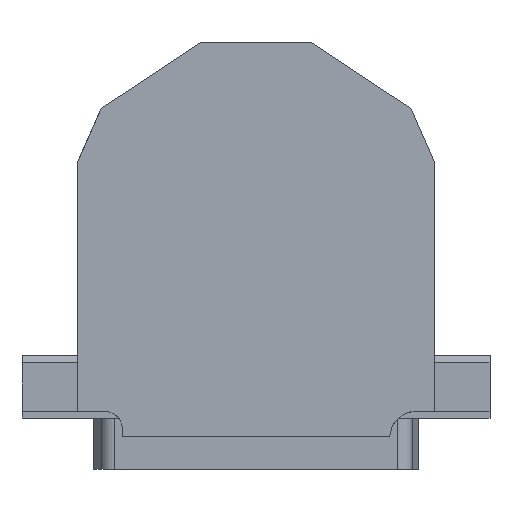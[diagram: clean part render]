
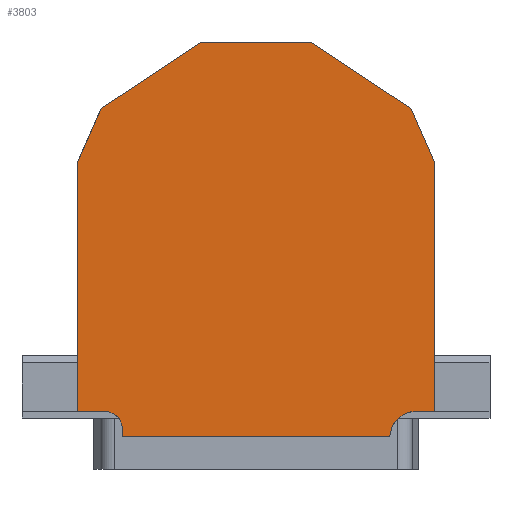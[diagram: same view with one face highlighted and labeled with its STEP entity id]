
A CAD part, top view. The second image highlights one B-rep face of the part: STEP entity #3803.
In plain terms, the highlighted planar face has unit normal (0, 0, 1).
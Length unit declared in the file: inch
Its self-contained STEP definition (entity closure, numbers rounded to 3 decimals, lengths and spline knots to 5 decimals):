
#611=DIRECTION('',(-1.,0.,0.));
#612=VECTOR('',#611,0.08015);
#613=CARTESIAN_POINT('',(0.8,0.,0.318));
#614=LINE('',#613,#612);
#615=DIRECTION('',(-1.,0.,0.));
#616=VECTOR('',#615,0.12);
#617=CARTESIAN_POINT('',(-0.68,0.,0.318));
#618=LINE('',#617,#616);
#619=DIRECTION('',(0.,1.,0.));
#620=VECTOR('',#619,1.12);
#621=CARTESIAN_POINT('',(-0.8,0.,0.318));
#622=LINE('',#621,#620);
#623=DIRECTION('',(0.401,0.916,0.));
#624=VECTOR('',#623,0.26214);
#625=CARTESIAN_POINT('',(-0.8,1.12,0.318));
#626=LINE('',#625,#624);
#627=CARTESIAN_POINT('',(-0.695,1.36019,0.318));
#628=CARTESIAN_POINT('',(-0.54667,1.45846,0.318));
#629=CARTESIAN_POINT('',(-0.39833,1.55673,0.318));
#630=CARTESIAN_POINT('',(-0.25,1.655,0.318));
#632=DIRECTION('',(1.,0.,0.));
#633=VECTOR('',#632,0.5);
#634=CARTESIAN_POINT('',(-0.25,1.655,0.318));
#635=LINE('',#634,#633);
#636=CARTESIAN_POINT('',(0.25,1.655,0.318));
#637=CARTESIAN_POINT('',(0.39833,1.55673,0.318));
#638=CARTESIAN_POINT('',(0.54667,1.45846,0.318));
#639=CARTESIAN_POINT('',(0.695,1.36019,0.318));
#641=DIRECTION('',(0.401,-0.916,0.));
#642=VECTOR('',#641,0.26214);
#643=CARTESIAN_POINT('',(0.695,1.36019,0.318));
#644=LINE('',#643,#642);
#645=DIRECTION('',(0.,-1.,0.));
#646=VECTOR('',#645,1.12);
#647=CARTESIAN_POINT('',(0.8,1.12,0.318));
#648=LINE('',#647,#646);
#970=CARTESIAN_POINT('',(-0.68,-0.08,0.318));
#971=DIRECTION('',(0.,0.,-1.));
#972=DIRECTION('',(0.,1.,0.));
#973=AXIS2_PLACEMENT_3D('',#970,#971,#972);
#993=DIRECTION('',(0.,-1.,0.));
#994=VECTOR('',#993,0.034);
#995=CARTESIAN_POINT('',(-0.6,-0.08,0.318));
#996=LINE('',#995,#994);
#1009=DIRECTION('',(1.,0.,0.));
#1010=VECTOR('',#1009,1.2);
#1011=CARTESIAN_POINT('',(-0.6,-0.114,0.318));
#1012=LINE('',#1011,#1010);
#1028=CARTESIAN_POINT('',(0.71985,-0.12,0.318));
#1029=DIRECTION('',(0.,0.,-1.));
#1030=DIRECTION('',(-0.999,0.05,0.));
#1031=AXIS2_PLACEMENT_3D('',#1028,#1029,#1030);
#2691=CARTESIAN_POINT('',(-0.8,0.,0.318));
#2692=CARTESIAN_POINT('',(-0.8,1.12,0.318));
#2693=VERTEX_POINT('',#2691);
#2694=VERTEX_POINT('',#2692);
#2695=CARTESIAN_POINT('',(-0.695,1.36019,0.318));
#2696=VERTEX_POINT('',#2695);
#2697=VERTEX_POINT('',#630);
#2698=CARTESIAN_POINT('',(0.25,1.655,0.318));
#2699=VERTEX_POINT('',#2698);
#2743=CARTESIAN_POINT('',(-0.6,-0.114,0.318));
#2745=VERTEX_POINT('',#2743);
#2763=VERTEX_POINT('',#639);
#2764=CARTESIAN_POINT('',(0.8,1.12,0.318));
#2765=VERTEX_POINT('',#2764);
#2766=CARTESIAN_POINT('',(0.8,0.,0.318));
#2767=VERTEX_POINT('',#2766);
#2782=CARTESIAN_POINT('',(-0.6,-0.08,0.318));
#2784=VERTEX_POINT('',#2782);
#2787=CARTESIAN_POINT('',(0.6,-0.114,0.318));
#2789=VERTEX_POINT('',#2787);
#2790=CARTESIAN_POINT('',(0.71985,0.,0.318));
#2791=VERTEX_POINT('',#2790);
#2792=CARTESIAN_POINT('',(-0.68,0.,0.318));
#2793=VERTEX_POINT('',#2792);
#3772=CARTESIAN_POINT('',(0.,0.,0.318));
#3773=DIRECTION('',(0.,0.,-1.));
#3774=DIRECTION('',(-1.,0.,0.));
#3775=AXIS2_PLACEMENT_3D('',#3772,#3773,#3774);
#3776=PLANE('',#3775);
#3778=ORIENTED_EDGE('',*,*,#3777,.T.);
#3780=ORIENTED_EDGE('',*,*,#3779,.F.);
#3782=ORIENTED_EDGE('',*,*,#3781,.F.);
#3784=ORIENTED_EDGE('',*,*,#3783,.F.);
#3786=ORIENTED_EDGE('',*,*,#3785,.F.);
#3788=ORIENTED_EDGE('',*,*,#3787,.T.);
#3789=ORIENTED_EDGE('',*,*,#3745,.T.);
#3790=ORIENTED_EDGE('',*,*,#3763,.T.);
#3792=ORIENTED_EDGE('',*,*,#3791,.T.);
#3794=ORIENTED_EDGE('',*,*,#3793,.T.);
#3796=ORIENTED_EDGE('',*,*,#3795,.T.);
#3798=ORIENTED_EDGE('',*,*,#3797,.T.);
#3800=ORIENTED_EDGE('',*,*,#3799,.T.);
#3801=EDGE_LOOP('',(#3778,#3780,#3782,#3784,#3786,#3788,#3789,#3790,#3792,#3794,
#3796,#3798,#3800));
#3802=FACE_OUTER_BOUND('',#3801,.F.);
#3803=ADVANCED_FACE('',(#3802),#3776,.F.);
#631=B_SPLINE_CURVE_WITH_KNOTS('',3,(#627,#628,#629,#630),.UNSPECIFIED.,.F.,.F.,
(4,4),(0.,1.),.UNSPECIFIED.);
#640=B_SPLINE_CURVE_WITH_KNOTS('',3,(#636,#637,#638,#639),.UNSPECIFIED.,.F.,.F.,
(4,4),(0.,1.),.UNSPECIFIED.);
#974=CIRCLE('',#973,0.08);
#1032=CIRCLE('',#1031,0.12);
#3745=EDGE_CURVE('',#2693,#2694,#622,.T.);
#3763=EDGE_CURVE('',#2694,#2696,#626,.T.);
#3777=EDGE_CURVE('',#2767,#2791,#614,.T.);
#3779=EDGE_CURVE('',#2789,#2791,#1032,.T.);
#3781=EDGE_CURVE('',#2745,#2789,#1012,.T.);
#3783=EDGE_CURVE('',#2784,#2745,#996,.T.);
#3785=EDGE_CURVE('',#2793,#2784,#974,.T.);
#3787=EDGE_CURVE('',#2793,#2693,#618,.T.);
#3791=EDGE_CURVE('',#2696,#2697,#631,.T.);
#3793=EDGE_CURVE('',#2697,#2699,#635,.T.);
#3795=EDGE_CURVE('',#2699,#2763,#640,.T.);
#3797=EDGE_CURVE('',#2763,#2765,#644,.T.);
#3799=EDGE_CURVE('',#2765,#2767,#648,.T.);
